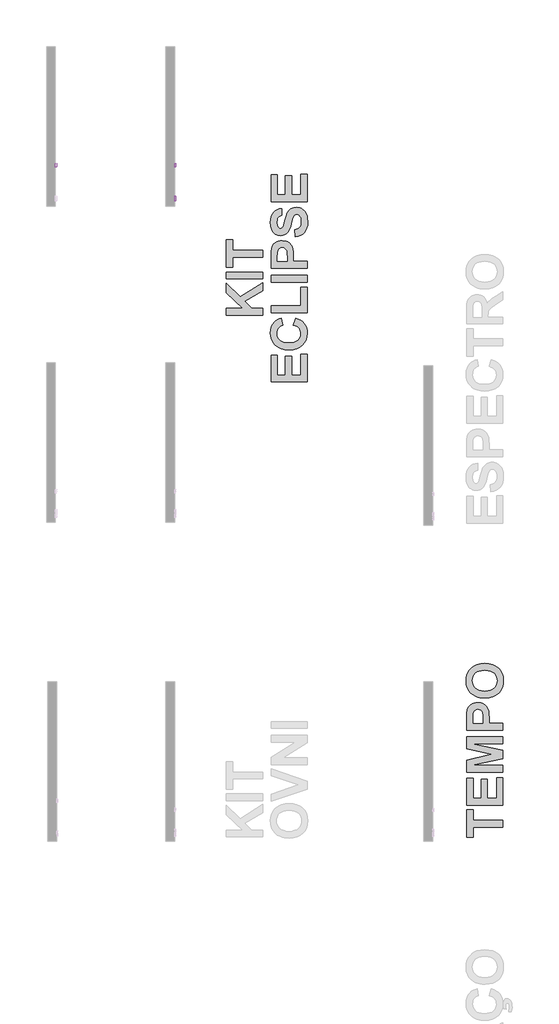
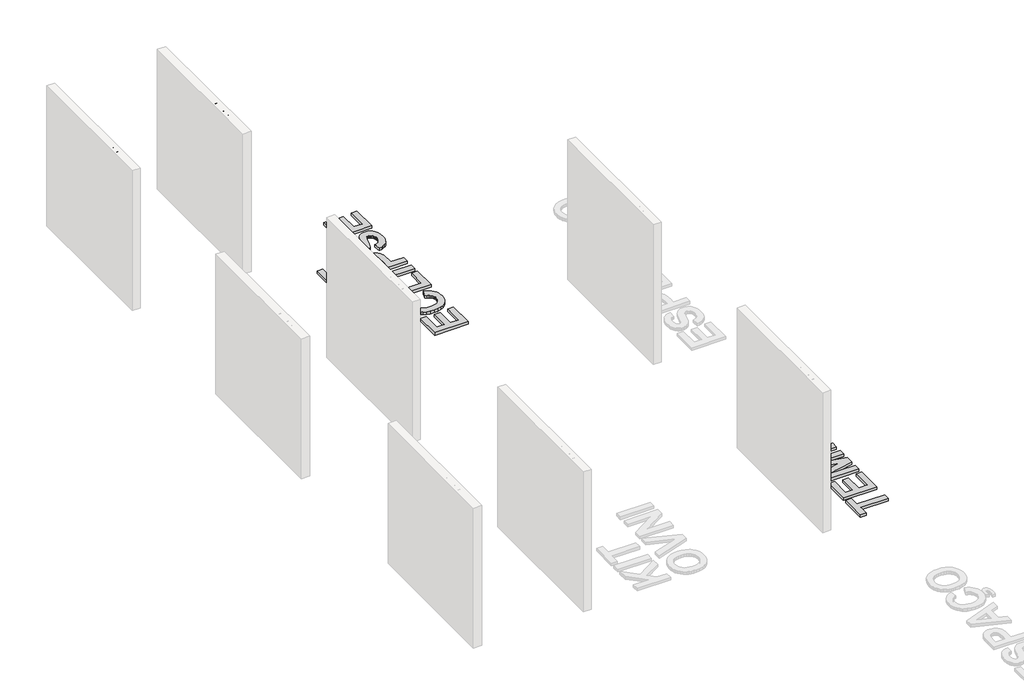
# One storey, part 8 of 9: 5 proxies.
"""IFC4 building model written with IfcOpenShell, lengths in millimetres."""

from ifc_helpers import new_model, si_unit, frame, origin, origin_with_axes, place, context, project, spatial, polyline, outline, extrude, element, save

model = new_model("IFC4")

# Units and contexts
model_context = context("Model", 3, world=origin())
ifc_project = project(units=[si_unit("LENGTHUNIT", "METRE", prefix="MILLI")], contexts=[model_context])

# Site, building, storey
site = spatial("IfcSite", under=ifc_project)
building = spatial("IfcBuilding", under=site)
storey = spatial("IfcBuildingStorey", under=building, Name="PORTOBELLO - SHOWROOM", Elevation=0.0)

# Proxies
placement = place(None, origin())
element("IfcBuildingElementProxy", 1, Name="10mm Arial", ObjectType="10mm Arial", at=placement, inside=storey, context=model_context, shape_type="SweptSolid", body=[
    extrude(outline(polyline([(11730.5226583, 2587.7332486), (11730.5226583, 2600.2902873), (11771.3330343, 2600.2902873), (11771.3330343, 2562.7417984), (11751.1853637, 2550.8959981), (11729.8849962, 2546.9228726), (11715.7981814, 2548.5016995), (11703.0663987, 2553.2381802), (11692.4897914, 2560.9667677), (11684.8685027, 2571.5219153), (11680.2607807, 2584.1831873), (11678.7248734, 2598.2301482), (11680.2546493, 2612.3782766), (11684.8439772, 2625.5392549), (11692.3027847, 2636.5787805), (11702.4409993, 2644.3625504), (11714.7895716, 2648.9794694), (11728.879452, 2650.5184424), (11748.5243506, 2646.9499871), (11762.2953999, 2637.0171732), (11769.8860318, 2620.4011697), (11758.3100117, 2617.1392827), (11752.5833153, 2628.752091), (11742.7976542, 2635.4475433), (11728.6832483, 2637.9614036), (11712.6068051, 2635.2513396), (11701.6684471, 2628.1389544), (11695.2059868, 2618.4636579), (11691.2819121, 2598.745183), (11696.0030644, 2576.8562043), (11709.7373256, 2563.7596052), (11728.879452, 2559.4799113), (11746.0595412, 2562.7050102), (11758.7759955, 2569.5844035), (11758.7759955, 2587.7332486), (11730.5226583, 2587.7332486)])), frame((123459.5859035, 0.0, 0.0), z_axis=(1.0, 0.0, 0.0), x_axis=(0.0, 1.0, 0.0)), (0.0, 0.0, 1.0), 20.0),
    extrude(outline(polyline([(11790.1685924, 2548.4925024), (11790.1685924, 2622.2651052), (11801.1560014, 2622.2651052), (11801.1560014, 2611.3512727), (11808.9550997, 2621.4067139), (11816.8032489, 2623.834735), (11829.4093386, 2619.9597114), (11825.2154839, 2608.7025223), (11816.386316, 2611.2776963), (11809.2861935, 2608.8006242), (11804.7612449, 2601.9334936), (11802.7256312, 2587.2672647), (11802.7256312, 2548.4925024), (11790.1685924, 2548.4925024)])), frame((123459.5859035, 0.0, 0.0), z_axis=(1.0, 0.0, 0.0), x_axis=(0.0, 1.0, 0.0)), (0.0, 0.0, 1.0), 20.0),
    extrude(outline(polyline([(11884.3463832, 2557.9102815), (11872.1694892, 2549.3999447), (11858.7172709, 2546.9228726), (11848.223437, 2548.4127947), (11840.4825867, 2552.8825609), (11835.7093178, 2559.6699837), (11834.1182281, 2568.1128755), (11836.5217238, 2578.0456894), (11842.8370314, 2585.2561765), (11851.6294111, 2589.3764548), (11862.4941927, 2591.2649157), (11884.2728068, 2595.5813978), (11884.3463832, 2598.377301), (11880.8882925, 2607.6479272), (11867.0068785, 2611.2776963), (11854.3026869, 2608.8619378), (11848.2448967, 2600.2902873), (11835.687858, 2601.8599172), (11841.1202488, 2614.1226504), (11852.0586068, 2621.308612), (11868.6255593, 2623.834735), (11883.8436111, 2621.6029176), (11892.4397871, 2615.9988485), (11896.2902853, 2607.476249), (11896.903422, 2596.4888401), (11896.903422, 2580.866118), (11897.5410841, 2559.0507157), (11900.0426817, 2548.4925024), (11887.4856429, 2548.4925024), (11884.3463832, 2557.9102815)]), holes=[polyline([(11884.3463832, 2583.024359), (11864.088348, 2579.1738608), (11853.2848801, 2577.1382471), (11848.3920495, 2573.8273092), (11846.6752669, 2568.9957923), (11850.4154005, 2562.2022381), (11861.3905467, 2559.4799113), (11874.0947383, 2562.484281), (11882.286244, 2569.7560817), (11884.2728068, 2579.4681664), (11884.3463832, 2583.024359)])]), frame((123459.5859035, 0.0, 0.0), z_axis=(1.0, 0.0, 0.0), x_axis=(0.0, 1.0, 0.0)), (0.0, 0.0, 1.0), 20.0),
    extrude(outline(polyline([(11914.1693503, 2520.2391652), (11914.1693503, 2622.2651052), (11926.7263891, 2622.2651052), (11926.7263891, 2609.9533211), (11935.4084041, 2620.3643815), (11947.1315771, 2623.834735), (11963.0486047, 2618.9786927), (11973.4474024, 2605.2934825), (11976.9545441, 2585.9428895), (11972.9936813, 2565.5990152), (11961.4912376, 2551.7421267), (11945.6109981, 2546.9228726), (11934.6849029, 2550.1479714), (11926.7263891, 2558.302689), (11926.7263891, 2520.2391652), (11914.1693503, 2520.2391652)]), holes=[polyline([(11926.7263891, 2584.7901926), (11928.0844868, 2573.5330036), (11932.1587798, 2565.6603289), (11938.1705848, 2561.0250157), (11945.341218, 2559.4799113), (11952.6283472, 2561.080198), (11958.7934363, 2565.8810581), (11962.9964881, 2574.041907), (11964.3975054, 2585.7221603), (11963.0302106, 2596.9180357), (11958.9283264, 2604.901075), (11952.9257185, 2609.683541), (11945.8562528, 2611.2776963), (11938.759196, 2609.5823734), (11932.5266618, 2604.4964048), (11928.1764573, 2596.179206), (11926.7263891, 2584.7901926)])]), frame((123459.5859035, 0.0, 0.0), z_axis=(1.0, 0.0, 0.0), x_axis=(0.0, 1.0, 0.0)), (0.0, 0.0, 1.0), 20.0),
    extrude(outline(polyline([(11991.0812127, 2548.4925024), (11991.0812127, 2648.9488126), (12003.6382515, 2648.9488126), (12003.6382515, 2612.0134603), (12013.4300439, 2620.8794163), (12025.490442, 2623.834735), (12039.5925852, 2620.6096362), (12048.1519729, 2611.6946292), (12050.7271469, 2595.1889903), (12050.7271469, 2548.4925024), (12038.1701081, 2548.4925024), (12038.1701081, 2593.8891406), (12034.1724571, 2607.1328925), (12022.8416917, 2611.2776963), (12012.5532585, 2608.4817931), (12005.686128, 2600.903424), (12003.6382515, 2587.6841976), (12003.6382515, 2548.4925024), (11991.0812127, 2548.4925024)])), frame((123459.5859035, 0.0, 0.0), z_axis=(1.0, 0.0, 0.0), x_axis=(0.0, 1.0, 0.0)), (0.0, 0.0, 1.0), 20.0),
    extrude(outline(polyline([(123479.5859035, 12080.550114), (123479.5859035, 12067.9930752), (123459.5859035, 12067.9930752), (123459.5859035, 12080.550114), (123479.5859035, 12080.550114)])), frame((0.0, 0.0, 2636.3917738), z_axis=(0.0, 0.0, 1.0), x_axis=(1.0, 0.0, 0.0)), (0.0, 0.0, 1.0), 12.5570388),
    extrude(outline(polyline([(123479.5859035, 12080.550114), (123479.5859035, 12067.9930752), (123459.5859035, 12067.9930752), (123459.5859035, 12080.550114), (123479.5859035, 12080.550114)])), frame((0.0, 0.0, 2548.4925024), z_axis=(0.0, 0.0, 1.0), x_axis=(1.0, 0.0, 0.0)), (0.0, 0.0, 1.0), 73.7726028),
    extrude(outline(polyline([(12126.0693795, 2558.9648766), (12127.6390094, 2548.1246204), (12118.2457557, 2546.9228726), (12107.7243307, 2549.0075372), (12102.4758809, 2554.4767162), (12100.955302, 2568.7260122), (12100.955302, 2609.7080664), (12091.5375229, 2609.7080664), (12091.5375229, 2622.2651052), (12100.955302, 2622.2651052), (12100.955302, 2640.1932211), (12113.5123407, 2647.5753865), (12113.5123407, 2622.2651052), (12126.0693795, 2622.2651052), (12126.0693795, 2609.7080664), (12113.5123407, 2609.7080664), (12113.5123407, 2569.0938942), (12114.1745283, 2562.619171), (12116.3205066, 2560.3260399), (12120.6002005, 2559.4799113), (12126.0693795, 2558.9648766)])), frame((123459.5859035, 0.0, 0.0), z_axis=(1.0, 0.0, 0.0), x_axis=(0.0, 1.0, 0.0)), (0.0, 0.0, 1.0), 20.0),
    extrude(outline(polyline([(12190.2770504, 2570.4673203), (12202.5888345, 2568.8976904), (12198.1527908, 2559.6209328), (12191.0741281, 2552.6863572), (12181.5122619, 2548.3637437), (12169.6266077, 2546.9228726), (12154.8929338, 2549.4091417), (12143.556037, 2556.8679492), (12136.3271558, 2568.814917), (12133.9175287, 2584.7656671), (12136.3516813, 2601.2529119), (12143.6541389, 2613.5830901), (12154.8377515, 2621.2718238), (12168.9153692, 2623.834735), (12182.5545942, 2621.2779552), (12193.4530983, 2613.6076156), (12200.599206, 2601.3019628), (12202.981242, 2584.8392435), (12202.9076656, 2581.4547292), (12146.4745675, 2581.4547292), (12148.648137, 2572.0553442), (12153.6973173, 2565.1452941), (12160.9844465, 2560.896257), (12169.8718624, 2559.4799113), (12182.1836465, 2562.1041362), (12190.2770504, 2570.4673203)]), holes=[polyline([(12146.4745675, 2594.011768), (12190.4242032, 2594.011768), (12185.3964826, 2605.3915843), (12178.0756309, 2609.8061683), (12168.8663183, 2611.2776963), (12153.4030117, 2606.5810695), (12148.5377724, 2601.0904307), (12146.4745675, 2594.011768)])]), frame((123459.5859035, 0.0, 0.0), z_axis=(1.0, 0.0, 0.0), x_axis=(0.0, 1.0, 0.0)), (0.0, 0.0, 1.0), 20.0),
])
element("IfcBuildingElementProxy", 2, Name="10mm Arial Narrow", ObjectType="10mm Arial Narrow", at=placement, inside=storey, context=model_context, shape_type="SweptSolid", body=[
    extrude(outline(polyline([(12255.568822, 2548.4925024), (12255.568822, 2649.2111062), (12286.8657067, 2649.2111062), (12303.1614082, 2647.3327854), (12314.6343943, 2637.8523423), (12318.9240728, 2620.8332334), (12317.1377644, 2608.7574079), (12311.7788392, 2599.1310141), (12302.0350504, 2592.8297557), (12287.0941511, 2590.7293363), (12265.3157837, 2590.7293363), (12265.3157837, 2548.4925024), (12255.568822, 2548.4925024)]), holes=[polyline([(12265.3157837, 2602.1007915), (12288.2871386, 2602.1007915), (12304.151334, 2606.6316057), (12309.1771111, 2620.3001965), (12306.7022966, 2630.4659729), (12300.7246678, 2636.2659227), (12288.0586942, 2637.8396509), (12265.3157837, 2637.8396509), (12265.3157837, 2602.1007915)])]), frame((123459.5859035, 0.0, 0.0), z_axis=(1.0, 0.0, 0.0), x_axis=(0.0, 1.0, 0.0)), (0.0, 0.0, 1.0), 20.0),
    extrude(outline(polyline([(12327.0465408, 2585.0436086), (12329.0010097, 2601.6343842), (12334.8644163, 2613.586469), (12343.722983, 2620.8110236), (12354.6629322, 2623.2192084), (12365.4759678, 2620.8110236), (12374.3599172, 2613.586469), (12380.2994719, 2601.8247545), (12382.2793235, 2585.80509), (12380.3343732, 2568.6432034), (12374.4995221, 2556.5007483), (12365.6504739, 2549.2761937), (12354.6629322, 2546.8680088), (12343.802304, 2549.2825394), (12334.9278731, 2556.526131), (12329.0168739, 2568.4845615), (12327.0465408, 2585.0436086)]), holes=[polyline([(12336.7935025, 2585.0689913), (12338.0975393, 2572.5172399), (12342.0096499, 2563.6459819), (12347.8508467, 2558.3727233), (12354.942142, 2556.6149705), (12361.6622152, 2558.3885875), (12367.3542885, 2563.7094386), (12371.2378435, 2572.5965609), (12372.5323619, 2585.0689913), (12371.228325, 2597.5826687), (12367.3162144, 2606.4412354), (12361.4750177, 2611.7144939), (12354.3837223, 2613.4722468), (12347.6160566, 2611.7049754), (12341.9335018, 2606.4031613), (12338.0785023, 2597.5350761), (12336.7935025, 2585.0689913)])]), frame((123459.5859035, 0.0, 0.0), z_axis=(1.0, 0.0, 0.0), x_axis=(0.0, 1.0, 0.0)), (0.0, 0.0, 1.0), 20.0),
    extrude(outline(polyline([(12453.7570423, 2556.6149705), (12455.3815359, 2546.8680088), (12448.0205493, 2546.8680088), (12439.7457849, 2548.9874653), (12435.4307238, 2554.7874152), (12434.263119, 2569.4332403), (12434.263119, 2611.8477532), (12426.140651, 2611.8477532), (12426.140651, 2615.0967404), (12424.5161574, 2610.2232596), (12416.952109, 2611.8477532), (12410.8729493, 2609.525235), (12407.0020856, 2603.0399519), (12405.0222341, 2587.6326453), (12405.0222341, 2548.4925024), (12395.2752724, 2548.4925024), (12395.2752724, 2621.5947148), (12405.0222341, 2621.5947148), (12405.0222341, 2611.8985186), (12411.2663814, 2620.9855297), (12417.6628249, 2623.2192084), (12426.140651, 2621.5947148), (12434.263119, 2621.5947148), (12434.263119, 2637.8396509), (12444.0100807, 2645.962119), (12444.0100807, 2621.5947148), (12453.7570423, 2621.5947148), (12453.7570423, 2611.8477532), (12444.0100807, 2611.8477532), (12444.0100807, 2567.1995616), (12444.8730929, 2559.2040072), (12449.4927466, 2556.6149705), (12453.7570423, 2556.6149705)])), frame((123459.5859035, 0.0, 0.0), z_axis=(1.0, 0.0, 0.0), x_axis=(0.0, 1.0, 0.0)), (0.0, 0.0, 1.0), 20.0),
    extrude(outline(polyline([(12460.2550168, 2585.0436086), (12462.2094856, 2601.6343842), (12468.0728922, 2613.586469), (12476.931459, 2620.8110236), (12487.8714081, 2623.2192084), (12498.6844437, 2620.8110236), (12507.5683931, 2613.586469), (12513.5079479, 2601.8247545), (12515.4877995, 2585.80509), (12513.5428491, 2568.6432034), (12507.707998, 2556.5007483), (12498.8589498, 2549.2761937), (12487.8714081, 2546.8680088), (12477.0107799, 2549.2825394), (12468.136349, 2556.526131), (12462.2253498, 2568.4845615), (12460.2550168, 2585.0436086)]), holes=[polyline([(12470.0019784, 2585.0689913), (12471.3060153, 2572.5172399), (12475.2181259, 2563.6459819), (12481.0593226, 2558.3727233), (12488.1506179, 2556.6149705), (12494.8706911, 2558.3885875), (12500.5627644, 2563.7094386), (12504.4463195, 2572.5965609), (12505.7408378, 2585.0689913), (12504.4368009, 2597.5826687), (12500.5246904, 2606.4412354), (12494.6834936, 2611.7144939), (12487.5921983, 2613.4722468), (12480.8245325, 2611.7049754), (12475.1419777, 2606.4031613), (12471.2869782, 2597.5350761), (12470.0019784, 2585.0689913)])]), frame((123459.5859035, 0.0, 0.0), z_axis=(1.0, 0.0, 0.0), x_axis=(0.0, 1.0, 0.0)), (0.0, 0.0, 1.0), 20.0),
    extrude(outline(polyline([(12538.23071, 2548.4925024), (12528.4837483, 2548.4925024), (12528.4837483, 2649.2111062), (12538.23071, 2649.2111062), (12538.23071, 2613.802222), (12545.6297707, 2620.8839989), (12554.831004, 2623.2192084), (12567.7127307, 2619.0183695), (12576.9901122, 2606.2889391), (12580.4675438, 2585.6020283), (12578.5352848, 2569.1476848), (12572.7385078, 2556.9449457), (12564.3653855, 2549.387243), (12554.7040905, 2546.8680088), (12545.3632522, 2549.4824282), (12538.23071, 2557.2495383), (12538.23071, 2548.4925024)]), holes=[polyline([(12538.23071, 2585.6020283), (12540.3120924, 2568.3544751), (12546.2008818, 2559.6228219), (12554.6533251, 2556.6149705), (12560.5960527, 2558.4044517), (12565.83441, 2563.7728954), (12570.7205822, 2585.1959049), (12566.012089, 2606.6316057), (12560.767386, 2611.7620865), (12554.4502634, 2613.4722468), (12548.4726345, 2611.6827655), (12543.1803389, 2606.3143218), (12538.23071, 2585.6020283)])]), frame((123459.5859035, 0.0, 0.0), z_axis=(1.0, 0.0, 0.0), x_axis=(0.0, 1.0, 0.0)), (0.0, 0.0, 1.0), 20.0),
    extrude(outline(polyline([(12632.4513393, 2571.2354129), (12642.198301, 2569.6109193), (12638.4987706, 2559.7243528), (12632.6797837, 2552.6045019), (12624.9761304, 2548.3021321), (12615.6226008, 2546.8680088), (12604.0290468, 2549.2825394), (12594.8849246, 2556.526131), (12588.9453698, 2568.3322652), (12586.9655182, 2584.4344235), (12588.9548884, 2601.1013472), (12594.9229987, 2613.2818764), (12603.9370345, 2620.7348754), (12615.0641811, 2623.2192084), (12625.7471303, 2620.8205421), (12634.4946477, 2613.6245431), (12640.3294987, 2601.8850385), (12642.2744491, 2585.8558554), (12642.198301, 2582.6068682), (12596.7124799, 2582.6068682), (12602.7154914, 2563.1637103), (12608.6455277, 2558.2521554), (12615.7495144, 2556.6149705), (12625.9279822, 2560.2700811), (12632.4513393, 2571.2354129)]), holes=[polyline([(12597.3724304, 2592.3538299), (12632.4513393, 2592.3538299), (12628.1870436, 2606.6189144), (12622.361711, 2611.7589137), (12615.1403293, 2613.4722468), (12602.9312445, 2607.7611364), (12597.3724304, 2592.3538299)])]), frame((123459.5859035, 0.0, 0.0), z_axis=(1.0, 0.0, 0.0), x_axis=(0.0, 1.0, 0.0)), (0.0, 0.0, 1.0), 20.0),
    extrude(outline(polyline([(123479.5859035, 12664.9412115), (123479.5859035, 12655.1942498), (123459.5859035, 12655.1942498), (123459.5859035, 12664.9412115), (123479.5859035, 12664.9412115)])), frame((0.0, 0.0, 2548.4925024), z_axis=(0.0, 0.0, 1.0), x_axis=(1.0, 0.0, 0.0)), (0.0, 0.0, 1.0), 100.7186038),
    extrude(outline(polyline([(123479.5859035, 12690.9331092), (123479.5859035, 12681.1861476), (123459.5859035, 12681.1861476), (123459.5859035, 12690.9331092), (123479.5859035, 12690.9331092)])), frame((0.0, 0.0, 2548.4925024), z_axis=(0.0, 0.0, 1.0), x_axis=(1.0, 0.0, 0.0)), (0.0, 0.0, 1.0), 100.7186038),
    extrude(outline(polyline([(12702.3045645, 2585.0436086), (12704.2590334, 2601.6343842), (12710.12244, 2613.586469), (12718.9810067, 2620.8110236), (12729.9209558, 2623.2192084), (12740.7339914, 2620.8110236), (12749.6179408, 2613.586469), (12755.5574956, 2601.8247545), (12757.5373472, 2585.80509), (12755.5923968, 2568.6432034), (12749.7575458, 2556.5007483), (12740.9084976, 2549.2761937), (12729.9209558, 2546.8680088), (12719.0603277, 2549.2825394), (12710.1858968, 2556.526131), (12704.2748976, 2568.4845615), (12702.3045645, 2585.0436086)]), holes=[polyline([(12712.0515261, 2585.0689913), (12713.355563, 2572.5172399), (12717.2676736, 2563.6459819), (12723.1088703, 2558.3727233), (12730.2001657, 2556.6149705), (12736.9202388, 2558.3885875), (12742.6123122, 2563.7094386), (12746.4958672, 2572.5965609), (12747.7903855, 2585.0689913), (12746.4863487, 2597.5826687), (12742.5742381, 2606.4412354), (12736.7330413, 2611.7144939), (12729.641746, 2613.4722468), (12722.8740802, 2611.7049754), (12717.1915254, 2606.4031613), (12713.336526, 2597.5350761), (12712.0515261, 2585.0689913)])]), frame((123459.5859035, 0.0, 0.0), z_axis=(1.0, 0.0, 0.0), x_axis=(0.0, 1.0, 0.0)), (0.0, 0.0, 1.0), 20.0),
])
element("IfcBuildingElementProxy", 3, Name="10mm Arial Narrow", ObjectType="10mm Arial Narrow", at=placement, inside=storey, context=model_context, shape_type="SweptSolid", body=[
    extrude(outline(polyline([(12255.568822, 2548.4925024), (12255.568822, 2649.2111062), (12286.8657067, 2649.2111062), (12303.1614082, 2647.3327854), (12314.6343943, 2637.8523423), (12318.9240728, 2620.8332334), (12317.1377644, 2608.7574079), (12311.7788392, 2599.1310141), (12302.0350504, 2592.8297557), (12287.0941511, 2590.7293363), (12265.3157837, 2590.7293363), (12265.3157837, 2548.4925024), (12255.568822, 2548.4925024)]), holes=[polyline([(12265.3157837, 2602.1007915), (12288.2871386, 2602.1007915), (12304.151334, 2606.6316057), (12309.1771111, 2620.3001965), (12306.7022966, 2630.4659729), (12300.7246678, 2636.2659227), (12288.0586942, 2637.8396509), (12265.3157837, 2637.8396509), (12265.3157837, 2602.1007915)])]), frame((121439.5859035, 0.0, 0.0), z_axis=(1.0, 0.0, 0.0), x_axis=(0.0, 1.0, 0.0)), (0.0, 0.0, 1.0), 20.0),
    extrude(outline(polyline([(12327.0465408, 2585.0436086), (12329.0010097, 2601.6343842), (12334.8644163, 2613.586469), (12343.722983, 2620.8110236), (12354.6629322, 2623.2192084), (12365.4759678, 2620.8110236), (12374.3599172, 2613.586469), (12380.2994719, 2601.8247545), (12382.2793235, 2585.80509), (12380.3343732, 2568.6432034), (12374.4995221, 2556.5007483), (12365.6504739, 2549.2761937), (12354.6629322, 2546.8680088), (12343.802304, 2549.2825394), (12334.9278731, 2556.526131), (12329.0168739, 2568.4845615), (12327.0465408, 2585.0436086)]), holes=[polyline([(12336.7935025, 2585.0689913), (12338.0975393, 2572.5172399), (12342.0096499, 2563.6459819), (12347.8508467, 2558.3727233), (12354.942142, 2556.6149705), (12361.6622152, 2558.3885875), (12367.3542885, 2563.7094386), (12371.2378435, 2572.5965609), (12372.5323619, 2585.0689913), (12371.228325, 2597.5826687), (12367.3162144, 2606.4412354), (12361.4750177, 2611.7144939), (12354.3837223, 2613.4722468), (12347.6160566, 2611.7049754), (12341.9335018, 2606.4031613), (12338.0785023, 2597.5350761), (12336.7935025, 2585.0689913)])]), frame((121439.5859035, 0.0, 0.0), z_axis=(1.0, 0.0, 0.0), x_axis=(0.0, 1.0, 0.0)), (0.0, 0.0, 1.0), 20.0),
    extrude(outline(polyline([(12453.7570423, 2556.6149705), (12455.3815359, 2546.8680088), (12448.0205493, 2546.8680088), (12439.7457849, 2548.9874653), (12435.4307238, 2554.7874152), (12434.263119, 2569.4332403), (12434.263119, 2611.8477532), (12426.140651, 2611.8477532), (12426.140651, 2615.0967404), (12424.5161574, 2610.2232596), (12416.952109, 2611.8477532), (12410.8729493, 2609.525235), (12407.0020856, 2603.0399519), (12405.0222341, 2587.6326453), (12405.0222341, 2548.4925024), (12395.2752724, 2548.4925024), (12395.2752724, 2621.5947148), (12405.0222341, 2621.5947148), (12405.0222341, 2611.8985186), (12411.2663814, 2620.9855297), (12417.6628249, 2623.2192084), (12426.140651, 2621.5947148), (12434.263119, 2621.5947148), (12434.263119, 2637.8396509), (12444.0100807, 2645.962119), (12444.0100807, 2621.5947148), (12453.7570423, 2621.5947148), (12453.7570423, 2611.8477532), (12444.0100807, 2611.8477532), (12444.0100807, 2567.1995616), (12444.8730929, 2559.2040072), (12449.4927466, 2556.6149705), (12453.7570423, 2556.6149705)])), frame((121439.5859035, 0.0, 0.0), z_axis=(1.0, 0.0, 0.0), x_axis=(0.0, 1.0, 0.0)), (0.0, 0.0, 1.0), 20.0),
    extrude(outline(polyline([(12460.2550168, 2585.0436086), (12462.2094856, 2601.6343842), (12468.0728922, 2613.586469), (12476.931459, 2620.8110236), (12487.8714081, 2623.2192084), (12498.6844437, 2620.8110236), (12507.5683931, 2613.586469), (12513.5079479, 2601.8247545), (12515.4877995, 2585.80509), (12513.5428491, 2568.6432034), (12507.707998, 2556.5007483), (12498.8589498, 2549.2761937), (12487.8714081, 2546.8680088), (12477.0107799, 2549.2825394), (12468.136349, 2556.526131), (12462.2253498, 2568.4845615), (12460.2550168, 2585.0436086)]), holes=[polyline([(12470.0019784, 2585.0689913), (12471.3060153, 2572.5172399), (12475.2181259, 2563.6459819), (12481.0593226, 2558.3727233), (12488.1506179, 2556.6149705), (12494.8706911, 2558.3885875), (12500.5627644, 2563.7094386), (12504.4463195, 2572.5965609), (12505.7408378, 2585.0689913), (12504.4368009, 2597.5826687), (12500.5246904, 2606.4412354), (12494.6834936, 2611.7144939), (12487.5921983, 2613.4722468), (12480.8245325, 2611.7049754), (12475.1419777, 2606.4031613), (12471.2869782, 2597.5350761), (12470.0019784, 2585.0689913)])]), frame((121439.5859035, 0.0, 0.0), z_axis=(1.0, 0.0, 0.0), x_axis=(0.0, 1.0, 0.0)), (0.0, 0.0, 1.0), 20.0),
    extrude(outline(polyline([(12538.23071, 2548.4925024), (12528.4837483, 2548.4925024), (12528.4837483, 2649.2111062), (12538.23071, 2649.2111062), (12538.23071, 2613.802222), (12545.6297707, 2620.8839989), (12554.831004, 2623.2192084), (12567.7127307, 2619.0183695), (12576.9901122, 2606.2889391), (12580.4675438, 2585.6020283), (12578.5352848, 2569.1476848), (12572.7385078, 2556.9449457), (12564.3653855, 2549.387243), (12554.7040905, 2546.8680088), (12545.3632522, 2549.4824282), (12538.23071, 2557.2495383), (12538.23071, 2548.4925024)]), holes=[polyline([(12538.23071, 2585.6020283), (12540.3120924, 2568.3544751), (12546.2008818, 2559.6228219), (12554.6533251, 2556.6149705), (12560.5960527, 2558.4044517), (12565.83441, 2563.7728954), (12570.7205822, 2585.1959049), (12566.012089, 2606.6316057), (12560.767386, 2611.7620865), (12554.4502634, 2613.4722468), (12548.4726345, 2611.6827655), (12543.1803389, 2606.3143218), (12538.23071, 2585.6020283)])]), frame((121439.5859035, 0.0, 0.0), z_axis=(1.0, 0.0, 0.0), x_axis=(0.0, 1.0, 0.0)), (0.0, 0.0, 1.0), 20.0),
    extrude(outline(polyline([(12632.4513393, 2571.2354129), (12642.198301, 2569.6109193), (12638.4987706, 2559.7243528), (12632.6797837, 2552.6045019), (12624.9761304, 2548.3021321), (12615.6226008, 2546.8680088), (12604.0290468, 2549.2825394), (12594.8849246, 2556.526131), (12588.9453698, 2568.3322652), (12586.9655182, 2584.4344235), (12588.9548884, 2601.1013472), (12594.9229987, 2613.2818764), (12603.9370345, 2620.7348754), (12615.0641811, 2623.2192084), (12625.7471303, 2620.8205421), (12634.4946477, 2613.6245431), (12640.3294987, 2601.8850385), (12642.2744491, 2585.8558554), (12642.198301, 2582.6068682), (12596.7124799, 2582.6068682), (12602.7154914, 2563.1637103), (12608.6455277, 2558.2521554), (12615.7495144, 2556.6149705), (12625.9279822, 2560.2700811), (12632.4513393, 2571.2354129)]), holes=[polyline([(12597.3724304, 2592.3538299), (12632.4513393, 2592.3538299), (12628.1870436, 2606.6189144), (12622.361711, 2611.7589137), (12615.1403293, 2613.4722468), (12602.9312445, 2607.7611364), (12597.3724304, 2592.3538299)])]), frame((121439.5859035, 0.0, 0.0), z_axis=(1.0, 0.0, 0.0), x_axis=(0.0, 1.0, 0.0)), (0.0, 0.0, 1.0), 20.0),
    extrude(outline(polyline([(121459.5859035, 12664.9412115), (121459.5859035, 12655.1942498), (121439.5859035, 12655.1942498), (121439.5859035, 12664.9412115), (121459.5859035, 12664.9412115)])), frame((0.0, 0.0, 2548.4925024), z_axis=(0.0, 0.0, 1.0), x_axis=(1.0, 0.0, 0.0)), (0.0, 0.0, 1.0), 100.7186038),
    extrude(outline(polyline([(121459.5859035, 12690.9331092), (121459.5859035, 12681.1861476), (121439.5859035, 12681.1861476), (121439.5859035, 12690.9331092), (121459.5859035, 12690.9331092)])), frame((0.0, 0.0, 2548.4925024), z_axis=(0.0, 0.0, 1.0), x_axis=(1.0, 0.0, 0.0)), (0.0, 0.0, 1.0), 100.7186038),
    extrude(outline(polyline([(12702.3045645, 2585.0436086), (12704.2590334, 2601.6343842), (12710.12244, 2613.586469), (12718.9810067, 2620.8110236), (12729.9209558, 2623.2192084), (12740.7339914, 2620.8110236), (12749.6179408, 2613.586469), (12755.5574956, 2601.8247545), (12757.5373472, 2585.80509), (12755.5923968, 2568.6432034), (12749.7575458, 2556.5007483), (12740.9084976, 2549.2761937), (12729.9209558, 2546.8680088), (12719.0603277, 2549.2825394), (12710.1858968, 2556.526131), (12704.2748976, 2568.4845615), (12702.3045645, 2585.0436086)]), holes=[polyline([(12712.0515261, 2585.0689913), (12713.355563, 2572.5172399), (12717.2676736, 2563.6459819), (12723.1088703, 2558.3727233), (12730.2001657, 2556.6149705), (12736.9202388, 2558.3885875), (12742.6123122, 2563.7094386), (12746.4958672, 2572.5965609), (12747.7903855, 2585.0689913), (12746.4863487, 2597.5826687), (12742.5742381, 2606.4412354), (12736.7330413, 2611.7144939), (12729.641746, 2613.4722468), (12722.8740802, 2611.7049754), (12717.1915254, 2606.4031613), (12713.336526, 2597.5350761), (12712.0515261, 2585.0689913)])]), frame((121439.5859035, 0.0, 0.0), z_axis=(1.0, 0.0, 0.0), x_axis=(0.0, 1.0, 0.0)), (0.0, 0.0, 1.0), 20.0),
])
element("IfcBuildingElementProxy", 4, Name="600mm Arial", ObjectType="600mm Arial", at=placement, inside=storey, context=model_context, shape_type="SweptSolid", body=[
    extrude(outline(polyline([(129012.9424461, 1084.4485132), (128507.6711243, 1084.4485132), (128507.6711243, 909.5469018), (128400.7868062, 909.5469018), (128400.7868062, 1375.9511989), (128507.6711243, 1375.9511989), (128507.6711243, 1201.0495875), (129012.9424461, 1201.0495875), (129012.9424461, 1084.4485132)])), origin_with_axes(), (0.0, 0.0, 1.0), 50.0),
    extrude(outline(polyline([(129012.9424461, 1453.6852485), (128400.7868062, 1453.6852485), (128400.7868062, 1910.3727894), (128507.6711243, 1910.3727894), (128507.6711243, 1570.2863227), (128643.7057109, 1570.2863227), (128643.7057109, 1890.939277), (128750.590029, 1890.939277), (128750.590029, 1570.2863227), (128906.0581281, 1570.2863227), (128906.0581281, 1920.0895456), (129012.9424461, 1920.0895456), (129012.9424461, 1453.6852485)])), origin_with_axes(), (0.0, 0.0, 1.0), 50.0),
    extrude(outline(polyline([(129012.9424461, 2017.2571075), (128400.7868062, 2017.2571075), (128400.7868062, 2217.0579066), (128818.3036737, 2313.6181713), (128400.7868062, 2410.1784359), (128400.7868062, 2609.9792351), (129012.9424461, 2609.9792351), (129012.9424461, 2493.3781608), (128531.0520688, 2488.5197827), (129012.9424461, 2381.9391132), (129012.9424461, 2245.4490536), (128531.0520688, 2138.7165599), (129012.9424461, 2133.8581818), (129012.9424461, 2017.2571075)])), origin_with_axes(), (0.0, 0.0, 1.0), 50.0),
    extrude(outline(polyline([(129012.9424461, 2726.5803094), (128400.7868062, 2726.5803094), (128400.7868062, 2923.8000951), (128403.0641709, 3016.4508837), (128409.8962651, 3070.0069109), (128418.744776, 3095.1290906), (128431.6261202, 3118.1162409), (128448.5402979, 3138.9683617), (128469.4873089, 3157.6854531), (128494.1160596, 3173.1288327), (128522.0754562, 3184.1598181), (128553.3654987, 3190.7784094), (128587.9861871, 3192.9846065), (128639.5495203, 3187.8036017), (128661.9863074, 3181.3273458), (128682.1931749, 3172.2605874), (128716.2777337, 3148.7278185), (128742.1637795, 3119.5775499), (128760.2878072, 3087.371817), (128771.0863116, 3054.6726551), (128777.5768011, 2999.8261211), (128779.7402976, 2924.8628654), (128779.7402976, 2843.1813836), (129012.9424461, 2843.1813836), (129012.9424461, 2726.5803094)]), holes=[polyline([(128507.6711243, 2843.1813836), (128672.8559795, 2843.1813836), (128672.8559795, 2915.6015821), (128670.5786148, 2980.8291036), (128663.7465206, 3020.1326233), (128652.0370702, 3043.6274361), (128635.1276371, 3061.4288371), (128614.0430353, 3072.6448584), (128589.8080789, 3076.3835322), (128560.8475908, 3071.1266153), (128537.4286901, 3055.3558645), (128520.6521032, 3031.5763811), (128511.6185565, 3002.2932662), (128507.6711243, 2907.0994204), (128507.6711243, 2843.1813836)])]), origin_with_axes(), (0.0, 0.0, 1.0), 50.0),
    extrude(outline(polyline([(128710.660234, 3270.718656), (128665.8530829, 3272.4361686), (128624.8035836, 3277.5887063), (128587.5117362, 3286.1762691), (128553.9775405, 3298.1988571), (128509.7397306, 3322.4338135), (128470.2464305, 3354.1461173), (128437.9268293, 3391.2861405), (128415.2101161, 3431.8042547), (128404.6488372, 3460.9735013), (128397.1050665, 3492.3062444), (128392.5788041, 3525.802484), (128391.07005, 3561.4622201), (128396.3032444, 3624.5642012), (128412.0028275, 3681.0238686), (128438.1687993, 3730.8412221), (128474.80116, 3774.0162618), (128496.7551932, 3792.6977693), (128520.7517379, 3808.8884092), (128574.8723619, 3833.797086), (128637.1630318, 3848.7422921), (128707.6237477, 3853.7240274), (128777.6052681, 3848.7802481), (128839.5211218, 3833.9489103), (128893.3713087, 3809.2300139), (128917.2717771, 3793.1627313), (128939.1558288, 3774.623559), (128975.6885547, 3731.7331899), (129001.783359, 3682.1625509), (129017.4402415, 3625.911642), (129022.6592023, 3562.9804633), (129017.463964, 3499.3850531), (129001.8782492, 3442.6596933), (128975.9020577, 3392.8043837), (128939.5353896, 3349.8191244), (128894.0592626, 3315.2126695), (128840.7546944, 3290.4937731), (128779.6216848, 3275.6624353), (128710.660234, 3270.718656)]), holes=[polyline([(128706.4091532, 3387.3197303), (128754.8316208, 3390.4178952), (128797.0103135, 3399.71239), (128832.9452311, 3415.2032147), (128862.6363738, 3436.8903693), (128885.8844721, 3463.3505008), (128902.4902566, 3493.1602562), (128912.4537273, 3526.3196356), (128915.7748842, 3562.828639), (128912.4774499, 3599.2996862), (128902.5851468, 3632.3451974), (128886.0979751, 3661.9651725), (128863.0159346, 3688.1596114), (128833.3390255, 3709.5810734), (128797.0672476, 3724.8821177), (128754.200601, 3734.0627443), (128704.7390857, 3737.1229531), (128655.9655244, 3734.1434009), (128613.7963208, 3725.2047444), (128578.2314749, 3710.3069834), (128549.2709867, 3689.4501181), (128526.819966, 3663.6589625), (128510.7835227, 3633.9583308), (128501.1616567, 3600.3482229), (128497.9543681, 3562.828639), (128501.1996128, 3525.2710989), (128510.935347, 3491.5471228), (128527.1615708, 3461.6567107), (128549.878284, 3435.5998626), (128579.1329317, 3414.4773047), (128614.9729592, 3399.3897634), (128657.3983664, 3390.3372385), (128706.4091532, 3387.3197303)])]), origin_with_axes(), (0.0, 0.0, 1.0), 50.0),
])
element("IfcBuildingElementProxy", 5, Name="600mm Arial", ObjectType="600mm Arial", at=placement, inside=storey, context=model_context, shape_type="SweptSolid", body=[
    extrude(outline(polyline([(124945.9574804, 9750.4160227), (124333.8018404, 9750.4160227), (124333.8018404, 9867.017097), (124612.8549322, 9867.017097), (124333.8018404, 10129.6731628), (124333.8018404, 10289.6959913), (124567.6112862, 10058.0120859), (124945.9574804, 10299.4127475), (124945.9574804, 10163.0745122), (124644.2825655, 9982.2517524), (124760.7318155, 9867.017097), (124945.9574804, 9867.017097), (124945.9574804, 9750.4160227)])), origin_with_axes(), (0.0, 0.0, 1.0), 50.0),
    extrude(outline(polyline([(124945.9574804, 10362.5716627), (124333.8018404, 10362.5716627), (124333.8018404, 10479.172737), (124945.9574804, 10479.172737), (124945.9574804, 10362.5716627)])), origin_with_axes(), (0.0, 0.0, 1.0), 50.0),
    extrude(outline(polyline([(124945.9574804, 10731.8083979), (124440.6861585, 10731.8083979), (124440.6861585, 10556.9067865), (124333.8018404, 10556.9067865), (124333.8018404, 11023.3110836), (124440.6861585, 11023.3110836), (124440.6861585, 10848.4094722), (124945.9574804, 10848.4094722), (124945.9574804, 10731.8083979)])), origin_with_axes(), (0.0, 0.0, 1.0), 50.0),
    extrude(outline(polyline([(125701.4255794, 8618.4139266), (125089.2699394, 8618.4139266), (125089.2699394, 9075.1014675), (125196.1542575, 9075.1014675), (125196.1542575, 8735.0150009), (125332.1888442, 8735.0150009), (125332.1888442, 9055.6679551), (125439.0731623, 9055.6679551), (125439.0731623, 8735.0150009), (125594.5412613, 8735.0150009), (125594.5412613, 9084.8182237), (125701.4255794, 9084.8182237), (125701.4255794, 8618.4139266)])), origin_with_axes(), (0.0, 0.0, 1.0), 50.0),
    extrude(outline(polyline([(125468.2234309, 9580.3727894), (125507.0904556, 9696.9738637), (125553.1928579, 9680.8709972), (125592.9660841, 9660.1944232), (125626.410134, 9634.9441418), (125653.5250079, 9605.1201528), (125674.4815079, 9570.8458136), (125689.4504365, 9532.2444814), (125698.4317937, 9489.3161562), (125701.4255794, 9442.060838), (125696.3109978, 9383.6748997), (125680.9672529, 9330.7356587), (125655.3943448, 9283.243115), (125619.5922734, 9241.1972686), (125574.9179685, 9206.7900831), (125522.7283601, 9182.2135221), (125463.023448, 9167.4675854), (125395.8032324, 9162.5522732), (125324.9202551, 9167.510286), (125262.4255712, 9182.3843244), (125208.3191808, 9207.1743884), (125184.4115956, 9223.28793), (125162.6010838, 9241.880478), (125126.2676273, 9284.6712125), (125100.3151584, 9333.7152109), (125084.743677, 9389.0124733), (125079.5531832, 9450.5629997), (125083.8327311, 9504.3847195), (125096.6713748, 9552.8925883), (125118.0691143, 9596.086606), (125148.0259495, 9633.9667727), (125170.4295251, 9653.6754667), (125197.2549838, 9670.7462132), (125228.5023257, 9685.1790122), (125264.1715509, 9696.9738637), (125283.6050632, 9580.3727894), (125262.2500244, 9573.0235436), (125243.2767294, 9562.5144543), (125226.6851785, 9548.8455214), (125212.4753714, 9532.0167449), (125201.0838033, 9512.6164441), (125192.9469689, 9491.2329382), (125188.0648682, 9467.8662271), (125186.4375013, 9442.5163109), (125189.393331, 9407.8671554), (125198.2608199, 9376.6435361), (125213.0399681, 9348.8454528), (125233.7307756, 9324.4729057), (125261.0354298, 9304.645599), (125295.6561183, 9290.483237), (125337.5928409, 9281.9858199), (125386.8455978, 9279.1533475), (125438.9782721, 9281.9004187), (125483.0263016, 9290.1416323), (125518.9896863, 9303.8769884), (125546.8684263, 9323.1064868), (125567.7252916, 9346.7388904), (125582.6230526, 9373.6829619), (125591.5617091, 9403.9387013), (125594.5412613, 9437.5061085), (125592.6387129, 9462.495442), (125586.9310675, 9485.6913507), (125577.4183252, 9507.0938346), (125564.1004861, 9526.7028939), (125546.6928794, 9544.0915225), (125524.9108346, 9558.8327146), (125498.7543518, 9570.9264703), (125468.2234309, 9580.3727894)])), origin_with_axes(), (0.0, 0.0, 1.0), 50.0),
    extrude(outline(polyline([(125701.4255794, 9794.1414256), (125089.2699394, 9794.1414256), (125089.2699394, 9910.7424999), (125594.5412613, 9910.7424999), (125594.5412613, 10221.6786979), (125701.4255794, 10221.6786979), (125701.4255794, 9794.1414256)])), origin_with_axes(), (0.0, 0.0, 1.0), 50.0),
    extrude(outline(polyline([(125701.4255794, 10309.1295036), (125089.2699394, 10309.1295036), (125089.2699394, 10425.7305779), (125701.4255794, 10425.7305779), (125701.4255794, 10309.1295036)])), origin_with_axes(), (0.0, 0.0, 1.0), 50.0),
    extrude(outline(polyline([(125701.4255794, 10542.3316522), (125089.2699394, 10542.3316522), (125089.2699394, 10739.551438), (125091.5473042, 10832.2022265), (125098.3793984, 10885.7582538), (125107.2279093, 10910.8804335), (125120.1092535, 10933.8675838), (125137.0234312, 10954.7197046), (125157.9704422, 10973.436796), (125182.5991929, 10988.8801756), (125210.5585895, 10999.911161), (125241.848632, 11006.5297522), (125276.4693204, 11008.7359493), (125328.0326536, 11003.5549446), (125350.4694407, 10997.0786886), (125370.6763082, 10988.0119303), (125404.760867, 10964.4791614), (125430.6469128, 10935.3288928), (125448.7709404, 10903.1231599), (125459.5694449, 10870.4239979), (125466.0599344, 10815.577464), (125468.2234309, 10740.6142082), (125468.2234309, 10658.9327265), (125701.4255794, 10658.9327265), (125701.4255794, 10542.3316522)]), holes=[polyline([(125196.1542575, 10658.9327265), (125361.3391128, 10658.9327265), (125361.3391128, 10731.352925), (125359.061748, 10796.5804465), (125352.2296538, 10835.8839662), (125340.5202035, 10859.378779), (125323.6107704, 10877.18018), (125302.5261686, 10888.3962013), (125278.2912122, 10892.134875), (125249.330724, 10886.8779581), (125225.9118234, 10871.1072074), (125209.1352365, 10847.3277239), (125200.1016897, 10818.0446091), (125196.1542575, 10722.8507633), (125196.1542575, 10658.9327265)])]), origin_with_axes(), (0.0, 0.0, 1.0), 50.0),
    extrude(outline(polyline([(125497.3736994, 11076.7532427), (125487.6569432, 11193.3543169), (125515.7254636, 11200.4141476), (125539.8085956, 11210.3586403), (125559.9063394, 11223.1877949), (125576.0186948, 11238.9016116), (125588.3733985, 11257.5475353), (125597.1981868, 11279.1730113), (125602.4930598, 11303.7780394), (125604.2580175, 11331.3626197), (125602.6970738, 11360.3515749), (125598.0142425, 11385.5259442), (125590.2095238, 11406.8857276), (125579.2829176, 11424.4309251), (125566.2687271, 11438.1140915), (125552.2012553, 11447.8877818), (125537.0805024, 11453.751996), (125520.9064683, 11455.7067341), (125501.0744171, 11452.4614893), (125484.3927204, 11442.7257551), (125470.2920372, 11424.86742), (125458.203026, 11397.2543726), (125432.2410681, 11296.1393785), (125419.5732268, 11249.206687), (125405.4061203, 11209.8272552), (125389.7397488, 11178.001083), (125372.5741121, 11153.7281706), (125345.9953679, 11128.5538013), (125316.6648079, 11110.5721089), (125284.5824323, 11099.7830935), (125249.7482409, 11096.186755), (125226.8227693, 11097.8378445), (125204.6564192, 11102.7911128), (125183.2491907, 11111.0465599), (125162.6010838, 11122.6041859), (125143.5376432, 11137.2742104), (125126.8844136, 11154.866853), (125112.641395, 11175.3821136), (125100.8085874, 11198.8199923), (125091.5093481, 11225.0001977), (125084.8670343, 11253.7424384), (125079.5531832, 11318.9130258), (125082.8648511, 11372.8248914), (125092.7998548, 11419.6294811), (125109.3581942, 11459.3267951), (125132.5398693, 11491.9168333), (125161.244154, 11517.503975), (125194.3703218, 11536.1925993), (125231.9183728, 11547.9827063), (125273.8883071, 11552.874296), (125273.8883071, 11436.2732217), (125252.2201305, 11431.0020712), (125233.8256658, 11423.3871329), (125218.7049129, 11413.4284067), (125206.8578718, 11401.1258927), (125197.9239597, 11385.9671837), (125191.5425939, 11367.4398727), (125186.4375013, 11320.2794447), (125191.8652206, 11270.6328935), (125198.6498697, 11250.3643474), (125208.1483785, 11233.1322876), (125224.4694924, 11217.8739439), (125245.4971601, 11212.7878293), (125265.3481893, 11217.4184709), (125282.0868201, 11231.3103958), (125291.8083208, 11247.2756715), (125301.6911348, 11271.6387296), (125321.9407029, 11345.5581932), (125343.0063267, 11424.4499031), (125365.0588085, 11479.6949759), (125391.76091, 11518.4101764), (125426.7753927, 11547.7122692), (125447.5089008, 11558.4728176), (125470.5387517, 11566.1589236), (125495.8649453, 11570.7705872), (125523.4874817, 11572.3078084), (125549.1837471, 11570.4906611), (125574.0449787, 11565.0392192), (125598.0711767, 11555.9534829), (125621.2623408, 11543.2334519), (125642.5746791, 11527.1875196), (125660.9643993, 11508.124079), (125676.4315015, 11486.0431301), (125688.9759855, 11460.944673), (125698.6737637, 11432.7006058), (125705.6007481, 11401.1828268), (125711.1423356, 11328.3261334), (125707.731033, 11273.8401822), (125697.4971253, 11226.0724569), (125680.4406123, 11185.0229576), (125656.5614942, 11150.6916843), (125626.1444415, 11122.8414114), (125589.4741248, 11101.2349135), (125546.5505441, 11085.8721906), (125497.3736994, 11076.7532427)])), origin_with_axes(), (0.0, 0.0, 1.0), 50.0),
    extrude(outline(polyline([(125701.4255794, 11669.4753703), (125089.2699394, 11669.4753703), (125089.2699394, 12126.1629112), (125196.1542575, 12126.1629112), (125196.1542575, 11786.0764445), (125332.1888442, 11786.0764445), (125332.1888442, 12106.7293988), (125439.0731623, 12106.7293988), (125439.0731623, 11786.0764445), (125594.5412613, 11786.0764445), (125594.5412613, 12135.8796674), (125701.4255794, 12135.8796674), (125701.4255794, 11669.4753703)])), origin_with_axes(), (0.0, 0.0, 1.0), 50.0),
])

save(model, "model.ifc")
